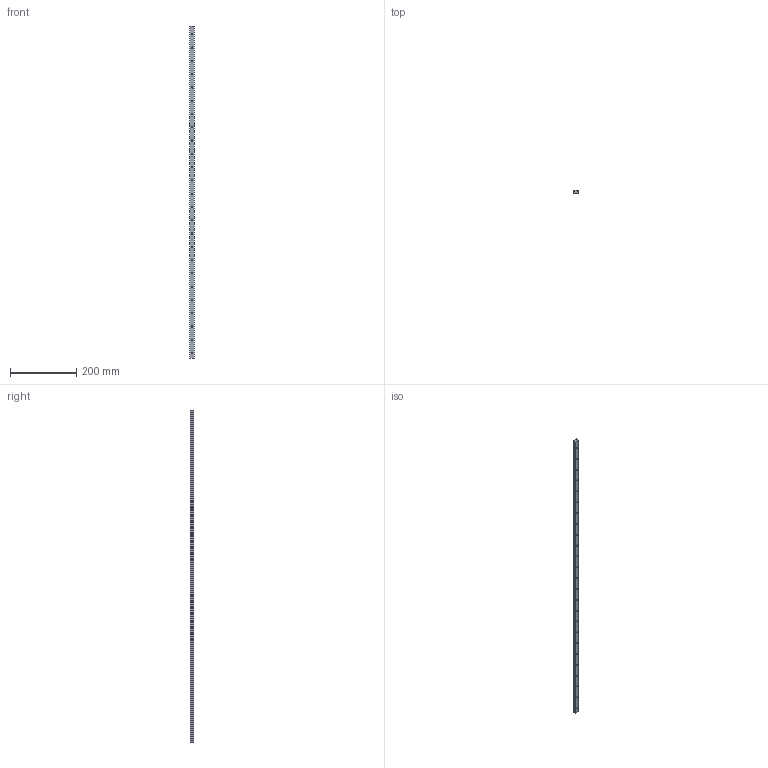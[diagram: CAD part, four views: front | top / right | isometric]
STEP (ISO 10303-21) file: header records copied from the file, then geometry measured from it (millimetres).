
FILE_DESCRIPTION (( 'STEP AP214' ), '1' );
FILE_NAME ('2.0016 Lineaarijohde MGN15 1000 mm.STEP', '2024-04-22T10:05:28', ( '' ), ( '' ), 'SwSTEP 2.0', 'SolidWorks 2024', '' );
FILE_SCHEMA (( 'AUTOMOTIVE_DESIGN' ));
Length unit declared in the file: millimetre
Products named in the file (1): 2.0016 Lineaarijohde MGN15 1000 mm
Bounding box: 15 x 10 x 1000 mm (x, y, z)
Volume: 138574 mm3; surface area: 55727.8 mm2
Topology: 1 solids, 1 shells, 140 faces, 339 edges, 226 vertices
Faces by surface type: cylinder 103, plane 37
Entity records: 4332 total; most frequent: DIRECTION 827, CARTESIAN_POINT 706, ORIENTED_EDGE 678, AXIS2_PLACEMENT_3D 347, EDGE_CURVE 339, VERTEX_POINT 226, EDGE_LOOP 215, CIRCLE 206
